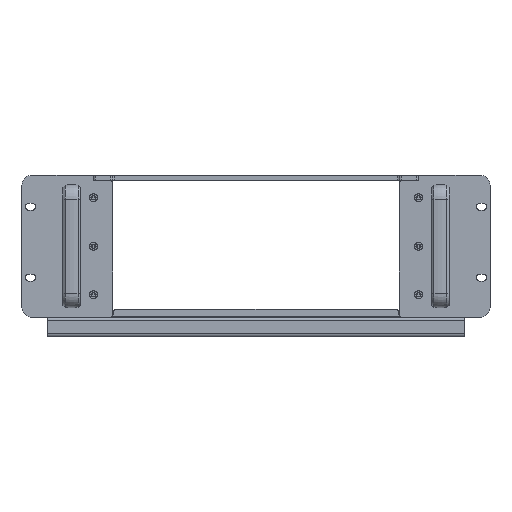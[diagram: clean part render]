
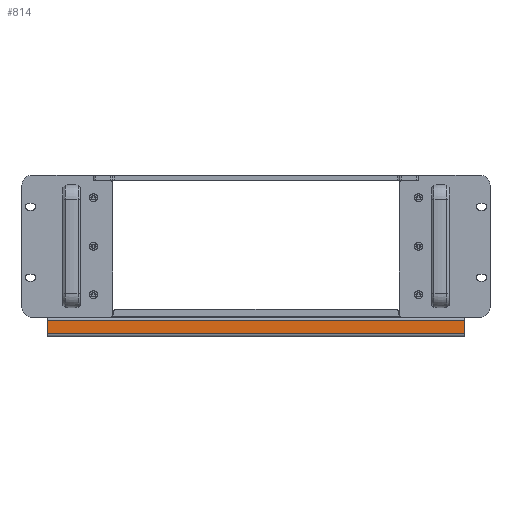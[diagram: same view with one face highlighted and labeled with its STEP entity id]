
A CAD part, front view. The second image highlights one B-rep face of the part: STEP entity #814.
In plain terms, the highlighted planar face has unit normal (0, -1, 0) as drawn and (1, 0, 0) by its records, which use the part's own axes.
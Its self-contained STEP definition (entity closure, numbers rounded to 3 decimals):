
#814 = ADVANCED_FACE ( 'NONE', ( #13434 ), #14447, .T. ) ;
#2310 = EDGE_CURVE ( 'NONE', #8887, #8926, #21092, .T. ) ;
#2319 = EDGE_CURVE ( 'NONE', #2854, #8887, #21161, .T. ) ;
#2359 = EDGE_CURVE ( 'NONE', #8926, #2906, #21246, .T. ) ;
#2381 = EDGE_CURVE ( 'NONE', #2854, #2906, #21218, .T. ) ;
#2854 = VERTEX_POINT ( 'NONE', #21945 ) ;
#2906 = VERTEX_POINT ( 'NONE', #22011 ) ;
#4739 = ORIENTED_EDGE ( 'NONE', *, *, #2319, .T. ) ;
#4752 = ORIENTED_EDGE ( 'NONE', *, *, #2310, .T. ) ;
#4768 = ORIENTED_EDGE ( 'NONE', *, *, #2359, .T. ) ;
#4769 = ORIENTED_EDGE ( 'NONE', *, *, #2381, .F. ) ;
#5836 = EDGE_LOOP ( 'NONE', ( #4752, #4768, #4769, #4739 ) ) ;
#8887 = VERTEX_POINT ( 'NONE', #26957 ) ;
#8926 = VERTEX_POINT ( 'NONE', #26943 ) ;
#13434 = FACE_OUTER_BOUND ( 'NONE', #5836, .T. ) ;
#14186 = AXIS2_PLACEMENT_3D ( 'NONE', #14403, #14404, #14405 ) ;
#14403 = CARTESIAN_POINT ( 'NONE',  ( 20., 20., -430. ) ) ;
#14404 = DIRECTION ( 'NONE',  ( 1., 0., 0. ) ) ;
#14405 = DIRECTION ( 'NONE',  ( 0., 0., -1. ) ) ;
#14447 = PLANE ( 'NONE',  #14186 ) ;
#21092 = LINE ( 'NONE', #22169, #21116 ) ;
#21116 = VECTOR ( 'NONE', #22204, 1000. ) ;
#21161 = LINE ( 'NONE', #22187, #21172 ) ;
#21172 = VECTOR ( 'NONE', #22195, 1000. ) ;
#21200 = VECTOR ( 'NONE', #22268, 1000. ) ;
#21218 = LINE ( 'NONE', #22348, #21230 ) ;
#21230 = VECTOR ( 'NONE', #22351, 1000. ) ;
#21246 = LINE ( 'NONE', #22278, #21200 ) ;
#21945 = CARTESIAN_POINT ( 'NONE',  ( 20., 3., 0. ) ) ;
#22011 = CARTESIAN_POINT ( 'NONE',  ( 20., 17., 0. ) ) ;
#22169 = CARTESIAN_POINT ( 'NONE',  ( 20., 20., -430. ) ) ;
#22187 = CARTESIAN_POINT ( 'NONE',  ( 20., 3., -430. ) ) ;
#22195 = DIRECTION ( 'NONE',  ( 0., 0., -1. ) ) ;
#22204 = DIRECTION ( 'NONE',  ( 0., 1., 0. ) ) ;
#22268 = DIRECTION ( 'NONE',  ( 0., 0., 1. ) ) ;
#22278 = CARTESIAN_POINT ( 'NONE',  ( 20., 17., -430. ) ) ;
#22348 = CARTESIAN_POINT ( 'NONE',  ( 20., 20., 0. ) ) ;
#22351 = DIRECTION ( 'NONE',  ( 0., 1., 0. ) ) ;
#26943 = CARTESIAN_POINT ( 'NONE',  ( 20., 17., -430. ) ) ;
#26957 = CARTESIAN_POINT ( 'NONE',  ( 20., 3., -430. ) ) ;
